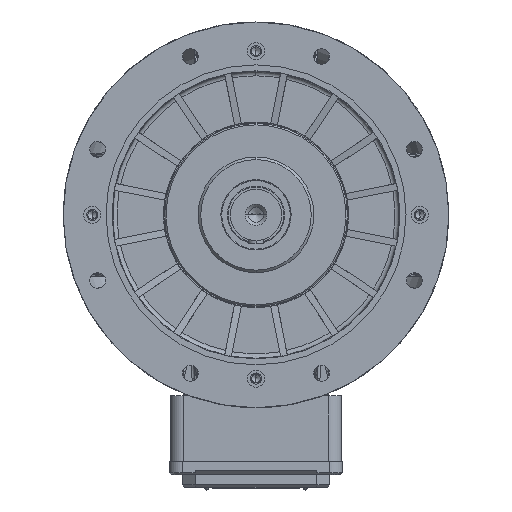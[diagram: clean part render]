
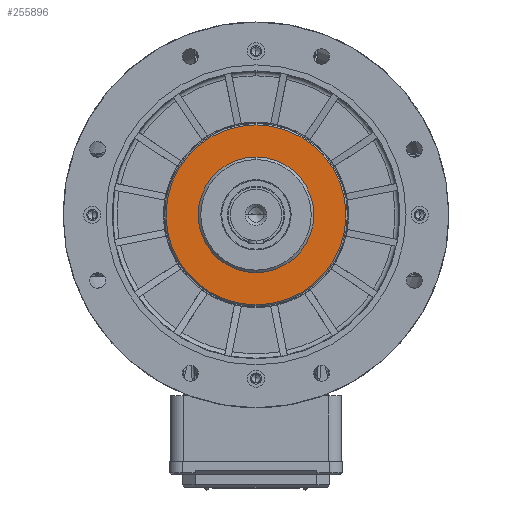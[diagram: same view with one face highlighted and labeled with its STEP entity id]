
A CAD part, left-side view. The second image highlights one B-rep face of the part: STEP entity #255896.
In plain terms, the highlighted planar face has unit normal (-1, 0, 0) as drawn and (0, 1, 0) by its records, which use the part's own axes.
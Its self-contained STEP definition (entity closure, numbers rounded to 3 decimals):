
#1638 = DIRECTION ( 'NONE',  ( 0., -1., 0. ) ) ;
#6566 = AXIS2_PLACEMENT_3D ( 'NONE', #149969, #30945, #169963 ) ;
#22442 = EDGE_CURVE ( 'NONE', #152547, #114767, #241014, .T. ) ;
#23329 = DIRECTION ( 'NONE',  ( 0., 1., 0. ) ) ;
#30945 = DIRECTION ( 'NONE',  ( 0., 1., 0. ) ) ;
#38021 = ORIENTED_EDGE ( 'NONE', *, *, #202951, .F. ) ;
#39012 = CARTESIAN_POINT ( 'NONE',  ( 0., 96., 0. ) ) ;
#58992 = DIRECTION ( 'NONE',  ( 0., 0., 1. ) ) ;
#61686 = CARTESIAN_POINT ( 'NONE',  ( 0., 96., -105. ) ) ;
#64469 = EDGE_LOOP ( 'NONE', ( #223158, #38021 ) ) ;
#71241 = ORIENTED_EDGE ( 'NONE', *, *, #22442, .T. ) ;
#76092 = AXIS2_PLACEMENT_3D ( 'NONE', #142296, #23329, #162265 ) ;
#80656 = PLANE ( 'NONE',  #235453 ) ;
#84021 = EDGE_CURVE ( 'NONE', #207477, #219615, #244358, .T. ) ;
#94979 = CARTESIAN_POINT ( 'NONE',  ( 0., 96., 0. ) ) ;
#114767 = VERTEX_POINT ( 'NONE', #61686 ) ;
#115004 = DIRECTION ( 'NONE',  ( 0., 0., 1. ) ) ;
#120669 = CARTESIAN_POINT ( 'NONE',  ( 67.47, 96., 0. ) ) ;
#124130 = AXIS2_PLACEMENT_3D ( 'NONE', #39012, #178067, #58992 ) ;
#127461 = CARTESIAN_POINT ( 'NONE',  ( 0., 96., 105. ) ) ;
#132154 = FACE_BOUND ( 'NONE', #64469, .T. ) ;
#133189 = CARTESIAN_POINT ( 'NONE',  ( 0., 96., -67.47 ) ) ;
#140599 = DIRECTION ( 'NONE',  ( 0., 0., -1. ) ) ;
#140755 = CARTESIAN_POINT ( 'NONE',  ( 0., 96., 67.47 ) ) ;
#142296 = CARTESIAN_POINT ( 'NONE',  ( 0., 96., 0. ) ) ;
#148940 = CIRCLE ( 'NONE', #76092, 67.47 ) ;
#149969 = CARTESIAN_POINT ( 'NONE',  ( 0., 96., 0. ) ) ;
#152547 = VERTEX_POINT ( 'NONE', #127461 ) ;
#162265 = DIRECTION ( 'NONE',  ( 0., 0., 1. ) ) ;
#165040 = EDGE_CURVE ( 'NONE', #114767, #152547, #254423, .T. ) ;
#169963 = DIRECTION ( 'NONE',  ( 0., 0., 1. ) ) ;
#178067 = DIRECTION ( 'NONE',  ( 0., 1., 0. ) ) ;
#202951 = EDGE_CURVE ( 'NONE', #219615, #207477, #148940, .T. ) ;
#207477 = VERTEX_POINT ( 'NONE', #133189 ) ;
#210326 = ORIENTED_EDGE ( 'NONE', *, *, #165040, .T. ) ;
#218941 = EDGE_LOOP ( 'NONE', ( #210326, #71241 ) ) ;
#219615 = VERTEX_POINT ( 'NONE', #140755 ) ;
#223158 = ORIENTED_EDGE ( 'NONE', *, *, #84021, .F. ) ;
#228215 = AXIS2_PLACEMENT_3D ( 'NONE', #94979, #234038, #115004 ) ;
#234038 = DIRECTION ( 'NONE',  ( 0., 1., 0. ) ) ;
#235453 = AXIS2_PLACEMENT_3D ( 'NONE', #120669, #1638, #140599 ) ;
#237841 = FACE_OUTER_BOUND ( 'NONE', #218941, .T. ) ;
#241014 = CIRCLE ( 'NONE', #6566, 105. ) ;
#244358 = CIRCLE ( 'NONE', #124130, 67.47 ) ;
#254423 = CIRCLE ( 'NONE', #228215, 105. ) ;
#255896 = ADVANCED_FACE ( 'NONE', ( #132154, #237841 ), #80656, .F. ) ;
